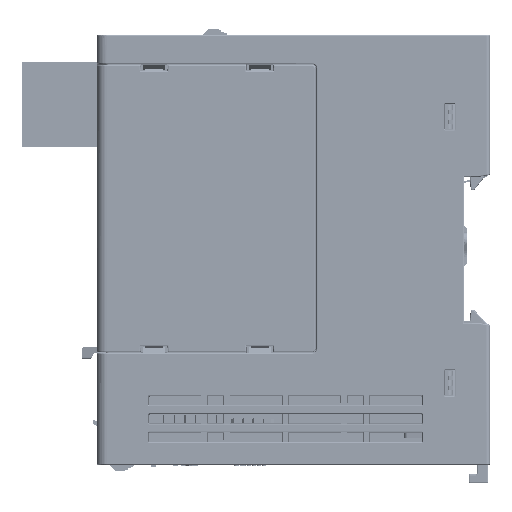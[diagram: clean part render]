
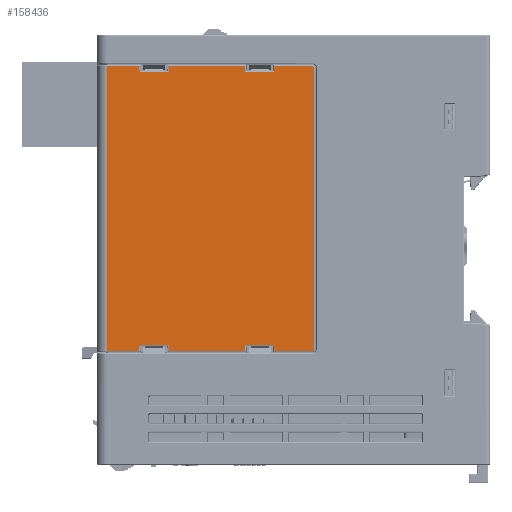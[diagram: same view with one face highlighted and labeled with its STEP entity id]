
A CAD part, left-side view. The second image highlights one B-rep face of the part: STEP entity #158436.
In plain terms, the highlighted planar face has unit normal (-1, 0, 0) as drawn and (0, -1, 0) by its records, which use the part's own axes.
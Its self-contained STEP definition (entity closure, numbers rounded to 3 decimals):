
#147935=DIRECTION('',(0.999,0.,0.035));
#147936=VECTOR('',#147935,1.476);
#147937=CARTESIAN_POINT('',(-32.669,0.,
-43.403));
#147938=LINE('',#147937,#147936);
#147939=DIRECTION('',(-0.999,0.,0.035));
#147940=VECTOR('',#147939,1.476);
#147941=CARTESIAN_POINT('',(-31.194,0.,-36.249));
#147942=LINE('',#147941,#147940);
#147943=DIRECTION('',(0.999,0.,0.035));
#147944=VECTOR('',#147943,1.476);
#147945=CARTESIAN_POINT('',(-32.669,0.,-17.603));
#147946=LINE('',#147945,#147944);
#147947=DIRECTION('',(-0.999,0.,0.035));
#147948=VECTOR('',#147947,1.476);
#147949=CARTESIAN_POINT('',(-31.194,0.,-10.449));
#147950=LINE('',#147949,#147948);
#147951=DIRECTION('',(-0.999,0.,-0.035));
#147952=VECTOR('',#147951,1.476);
#147953=CARTESIAN_POINT('',(36.919,0.,-10.397));
#147954=LINE('',#147953,#147952);
#147955=DIRECTION('',(0.999,0.,-0.035));
#147956=VECTOR('',#147955,1.476);
#147957=CARTESIAN_POINT('',(35.444,0.,-17.551));
#147958=LINE('',#147957,#147956);
#147959=DIRECTION('',(-0.999,0.,-0.035));
#147960=VECTOR('',#147959,1.476);
#147961=CARTESIAN_POINT('',(36.919,0.,-36.197));
#147962=LINE('',#147961,#147960);
#147963=DIRECTION('',(0.999,0.,-0.035));
#147964=VECTOR('',#147963,1.476);
#147965=CARTESIAN_POINT('',(35.444,0.,-43.351));
#147966=LINE('',#147965,#147964);
#147967=CARTESIAN_POINT('',(36.325,0.,
-52.54));
#147968=DIRECTION('',(0.,1.,0.));
#147969=DIRECTION('',(1.,0.,0.001));
#147970=AXIS2_PLACEMENT_3D('',#147967,#147968,#147969);
#147972=CARTESIAN_POINT('',(-32.075,0.,
-52.54));
#147973=DIRECTION('',(0.,1.,0.));
#147974=DIRECTION('',(0.,0.,-1.));
#147975=AXIS2_PLACEMENT_3D('',#147972,#147973,#147974);
#147977=DIRECTION('',(0.,0.,-1.));
#147978=VECTOR('',#147977,9.137);
#147979=CARTESIAN_POINT('',(-32.669,0.,
-43.403));
#147980=LINE('',#147979,#147978);
#148390=DIRECTION('',(0.,0.,1.));
#148391=VECTOR('',#148390,7.102);
#148392=CARTESIAN_POINT('',(35.444,0.,-43.351));
#148393=LINE('',#148392,#148391);
#148435=DIRECTION('',(0.,0.,1.));
#148436=VECTOR('',#148435,18.595);
#148437=CARTESIAN_POINT('',(36.919,0.,-36.197));
#148438=LINE('',#148437,#148436);
#148462=DIRECTION('',(0.,0.,1.));
#148463=VECTOR('',#148462,7.102);
#148464=CARTESIAN_POINT('',(35.444,0.,-17.551));
#148465=LINE('',#148464,#148463);
#148507=DIRECTION('',(0.,0.,1.));
#148508=VECTOR('',#148507,7.897);
#148509=CARTESIAN_POINT('',(36.919,0.,-10.397));
#148510=LINE('',#148509,#148508);
#150392=DIRECTION('',(0.,0.,-1.));
#150393=VECTOR('',#150392,7.102);
#150394=CARTESIAN_POINT('',(-31.194,0.,-10.449));
#150395=LINE('',#150394,#150393);
#150437=DIRECTION('',(0.,0.,-1.));
#150438=VECTOR('',#150437,18.595);
#150439=CARTESIAN_POINT('',(-32.669,0.,-17.603));
#150440=LINE('',#150439,#150438);
#150464=DIRECTION('',(0.,0.,-1.));
#150465=VECTOR('',#150464,7.102);
#150466=CARTESIAN_POINT('',(-31.194,0.,-36.249));
#150467=LINE('',#150466,#150465);
#151277=DIRECTION('',(-1.,0.,0.));
#151278=VECTOR('',#151277,69.587);
#151279=CARTESIAN_POINT('',(36.919,0.,
-2.5));
#151280=LINE('',#151279,#151278);
#151383=DIRECTION('',(0.,0.,-1.));
#151384=VECTOR('',#151383,7.897);
#151385=CARTESIAN_POINT('',(-32.669,0.,
-2.5));
#151386=LINE('',#151385,#151384);
#155972=DIRECTION('',(1.,0.,0.));
#155973=VECTOR('',#155972,68.4);
#155974=CARTESIAN_POINT('',(-32.075,0.,
-53.134));
#155975=LINE('',#155974,#155973);
#156005=DIRECTION('',(0.,0.,1.));
#156006=VECTOR('',#156005,9.137);
#156007=CARTESIAN_POINT('',(36.919,0.,
-52.54));
#156008=LINE('',#156007,#156006);
#156193=CARTESIAN_POINT('',(-32.669,0.,
-43.403));
#156194=CARTESIAN_POINT('',(-32.669,0.,
-52.54));
#156195=VERTEX_POINT('',#156193);
#156196=VERTEX_POINT('',#156194);
#156197=CARTESIAN_POINT('',(-31.194,0.,-43.351));
#156198=VERTEX_POINT('',#156197);
#156199=CARTESIAN_POINT('',(-31.194,0.,-36.249));
#156200=VERTEX_POINT('',#156199);
#156201=CARTESIAN_POINT('',(-32.669,0.,-36.197));
#156202=VERTEX_POINT('',#156201);
#156203=CARTESIAN_POINT('',(-32.669,0.,-17.603));
#156204=VERTEX_POINT('',#156203);
#156205=CARTESIAN_POINT('',(-31.194,0.,-17.551));
#156206=VERTEX_POINT('',#156205);
#156207=CARTESIAN_POINT('',(-31.194,0.,-10.449));
#156208=VERTEX_POINT('',#156207);
#156209=CARTESIAN_POINT('',(-32.669,0.,-10.397));
#156210=VERTEX_POINT('',#156209);
#156211=CARTESIAN_POINT('',(-32.669,0.,
-2.5));
#156212=VERTEX_POINT('',#156211);
#156213=CARTESIAN_POINT('',(36.919,0.,
-2.5));
#156214=VERTEX_POINT('',#156213);
#156215=CARTESIAN_POINT('',(36.919,0.,-10.397));
#156216=VERTEX_POINT('',#156215);
#156217=CARTESIAN_POINT('',(35.444,0.,-10.449));
#156218=VERTEX_POINT('',#156217);
#156219=CARTESIAN_POINT('',(35.444,0.,-17.551));
#156220=VERTEX_POINT('',#156219);
#156221=CARTESIAN_POINT('',(36.919,0.,-17.603));
#156222=VERTEX_POINT('',#156221);
#156223=CARTESIAN_POINT('',(36.919,0.,-36.197));
#156224=VERTEX_POINT('',#156223);
#156225=CARTESIAN_POINT('',(35.444,0.,-36.249));
#156226=VERTEX_POINT('',#156225);
#156227=CARTESIAN_POINT('',(35.444,0.,-43.351));
#156228=VERTEX_POINT('',#156227);
#156229=CARTESIAN_POINT('',(36.919,0.,
-43.403));
#156230=VERTEX_POINT('',#156229);
#156231=CARTESIAN_POINT('',(36.919,0.,
-52.54));
#156232=VERTEX_POINT('',#156231);
#156233=CARTESIAN_POINT('',(36.325,0.,
-53.134));
#156234=VERTEX_POINT('',#156233);
#156235=CARTESIAN_POINT('',(-32.075,0.,
-53.134));
#156236=VERTEX_POINT('',#156235);
#158385=CARTESIAN_POINT('',(0.,0.,0.));
#158386=DIRECTION('',(0.,1.,0.));
#158387=DIRECTION('',(1.,0.,0.));
#158388=AXIS2_PLACEMENT_3D('',#158385,#158386,#158387);
#158389=PLANE('',#158388);
#158391=ORIENTED_EDGE('',*,*,#158390,.F.);
#158393=ORIENTED_EDGE('',*,*,#158392,.T.);
#158395=ORIENTED_EDGE('',*,*,#158394,.F.);
#158397=ORIENTED_EDGE('',*,*,#158396,.T.);
#158399=ORIENTED_EDGE('',*,*,#158398,.F.);
#158401=ORIENTED_EDGE('',*,*,#158400,.T.);
#158403=ORIENTED_EDGE('',*,*,#158402,.F.);
#158405=ORIENTED_EDGE('',*,*,#158404,.T.);
#158407=ORIENTED_EDGE('',*,*,#158406,.F.);
#158409=ORIENTED_EDGE('',*,*,#158408,.F.);
#158411=ORIENTED_EDGE('',*,*,#158410,.F.);
#158413=ORIENTED_EDGE('',*,*,#158412,.T.);
#158415=ORIENTED_EDGE('',*,*,#158414,.F.);
#158417=ORIENTED_EDGE('',*,*,#158416,.T.);
#158419=ORIENTED_EDGE('',*,*,#158418,.F.);
#158421=ORIENTED_EDGE('',*,*,#158420,.T.);
#158423=ORIENTED_EDGE('',*,*,#158422,.F.);
#158425=ORIENTED_EDGE('',*,*,#158424,.T.);
#158427=ORIENTED_EDGE('',*,*,#158426,.F.);
#158429=ORIENTED_EDGE('',*,*,#158428,.T.);
#158431=ORIENTED_EDGE('',*,*,#158430,.F.);
#158433=ORIENTED_EDGE('',*,*,#158432,.T.);
#158434=EDGE_LOOP('',(#158391,#158393,#158395,#158397,#158399,#158401,#158403,
#158405,#158407,#158409,#158411,#158413,#158415,#158417,#158419,#158421,#158423,
#158425,#158427,#158429,#158431,#158433));
#158435=FACE_OUTER_BOUND('',#158434,.F.);
#158436=ADVANCED_FACE('',(#158435),#158389,.F.);
#147971=CIRCLE('',#147970,0.594);
#147976=CIRCLE('',#147975,0.594);
#158390=EDGE_CURVE('',#156195,#156196,#147980,.T.);
#158392=EDGE_CURVE('',#156195,#156198,#147938,.T.);
#158394=EDGE_CURVE('',#156200,#156198,#150467,.T.);
#158396=EDGE_CURVE('',#156200,#156202,#147942,.T.);
#158398=EDGE_CURVE('',#156204,#156202,#150440,.T.);
#158400=EDGE_CURVE('',#156204,#156206,#147946,.T.);
#158402=EDGE_CURVE('',#156208,#156206,#150395,.T.);
#158404=EDGE_CURVE('',#156208,#156210,#147950,.T.);
#158406=EDGE_CURVE('',#156212,#156210,#151386,.T.);
#158408=EDGE_CURVE('',#156214,#156212,#151280,.T.);
#158410=EDGE_CURVE('',#156216,#156214,#148510,.T.);
#158412=EDGE_CURVE('',#156216,#156218,#147954,.T.);
#158414=EDGE_CURVE('',#156220,#156218,#148465,.T.);
#158416=EDGE_CURVE('',#156220,#156222,#147958,.T.);
#158418=EDGE_CURVE('',#156224,#156222,#148438,.T.);
#158420=EDGE_CURVE('',#156224,#156226,#147962,.T.);
#158422=EDGE_CURVE('',#156228,#156226,#148393,.T.);
#158424=EDGE_CURVE('',#156228,#156230,#147966,.T.);
#158426=EDGE_CURVE('',#156232,#156230,#156008,.T.);
#158428=EDGE_CURVE('',#156232,#156234,#147971,.T.);
#158430=EDGE_CURVE('',#156236,#156234,#155975,.T.);
#158432=EDGE_CURVE('',#156236,#156196,#147976,.T.);
